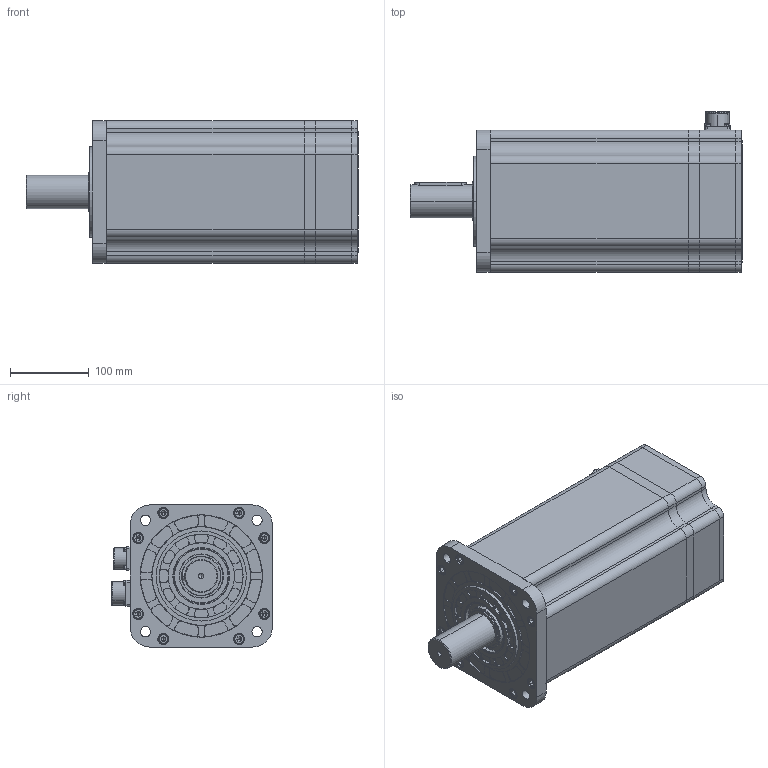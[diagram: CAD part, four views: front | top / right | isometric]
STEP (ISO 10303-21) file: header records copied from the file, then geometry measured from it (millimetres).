
FILE_DESCRIPTION (( 'STEP AP203' ), '1' );
FILE_NAME ('70680298£¨JLBH-2520-74-7RVP£©.STEP', '2020-03-12T11:34:56', ( '' ), ( '' ), 'SwSTEP 2.0', 'SolidWorks 2016', '' );
FILE_SCHEMA (( 'CONFIG_CONTROL_DESIGN' ));
Length unit declared in the file: millimetre
Products named in the file (20): 1.2.03.000026 埴芛す瑩A倰 12X8X65; 1.1.13.KYB180-0001 轴承压板（180）; 1.1.07.KSF180-0001 转轴（180总长307.5-轴承档147）-配HN20多圈; 1.2.05.100022 6郋弊莉萇埭菁釱; 隅赽軞傖; 1.1.02.KEB1802-0001 后端盖（180节圆55）; 1.2.09.000014 粣創 6207_Rolling bearings 6207 GB 276-94; 1.2.05.200006 17郋弊莉陓瘍菁釱; 1.2.09.000013 粣創 6310_Rolling bearings 6310 GB 276-94; 70680298（JLBH-2520-74-7RVP）; 1.2.02.800002 囀鞠褒 M8X20_GB_FASTENER_SCREWS_HSHCS M8X20-C; 1.1.12.KHG180-0001码盘罩后盖（180）; 1.2.02.800003 坋趼麥芛 M8X16_GB_CROSS_SCREWS_TYPE4 M8X16-11.35  H type-C; 1.1.11.KMP180-0001 码盘罩（180L46）; 1.1.21.KEB1803-0001 机壳（180L174）; hexagon socket head cap screws gb_GB_FASTENER_SCREWS_HSHCS M3X10-N; 1.1.01.KEB1801-0001 前端盖（180）; 1.3.03.200006 蚐猾 50x72x8; 1.2.02.800001 囀鞠褒 M8X45_GB_FASTENER_SCREWS_HSHCS M8X45-C; 1.2.02.300002 囀鞠褒 M5X16_GB_FASTENER_SCREWS_HSHCS M5X16-C
Assembly tree (48 placements, depth 3):
  70680298（JLBH-2520-74-7RVP）
    1.1.07.KSF180-0001 转轴（180总长307.5-轴承档147）-配HN20多圈
    1.2.09.000013 粣創 6310_Rolling bearings 6310 GB 276-94
    1.2.09.000014 粣創 6207_Rolling bearings 6207 GB 276-94
    1.1.02.KEB1802-0001 后端盖（180节圆55）
    隅赽軞傖
      1.1.21.KEB1803-0001 机壳（180L174）
      1.1.01.KEB1801-0001 前端盖（180）
      1.3.03.200006 蚐猾 50x72x8
    1.1.13.KYB180-0001 轴承压板（180）
    1.2.02.300002 囀鞠褒 M5X16_GB_FASTENER_SCREWS_HSHCS M5X16-C  x6
    1.2.02.800002 囀鞠褒 M8X20_GB_FASTENER_SCREWS_HSHCS M8X20-C  x12
    1.2.02.800001 囀鞠褒 M8X45_GB_FASTENER_SCREWS_HSHCS M8X45-C  x4
    1.1.11.KMP180-0001 码盘罩（180L46）
    1.1.12.KHG180-0001码盘罩后盖（180）
    1.2.02.800003 坋趼麥芛 M8X16_GB_CROSS_SCREWS_TYPE4 M8X16-11.35  H type-C  x4
    1.2.05.100022 6郋弊莉萇埭菁釱
    1.2.05.200006 17郋弊莉陓瘍菁釱
    1.2.03.000026 埴芛す瑩A倰 12X8X65
    hexagon socket head cap screws gb_GB_FASTENER_SCREWS_HSHCS M3X10-N  x8
Bounding box: 420.8 x 203.5 x 180 mm (x, y, z)
Volume: 3633125.3 mm3; surface area: 907005.5 mm2
Topology: 47 solids, 47 shells, 2303 faces, 6327 edges, 4033 vertices
Faces by surface type: plane 902, cylinder 895, torus 200, cone 194, sphere 110, bspline 2
Entity records: 58263 total; most frequent: CARTESIAN_POINT 13166, DIRECTION 9381, ORIENTED_EDGE 8754, EDGE_CURVE 4377, AXIS2_PLACEMENT_3D 3852, VERTEX_POINT 2881, CIRCLE 2224, EDGE_LOOP 1842
